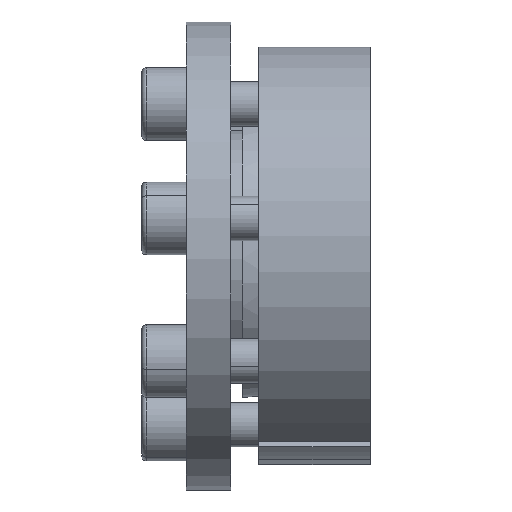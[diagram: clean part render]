
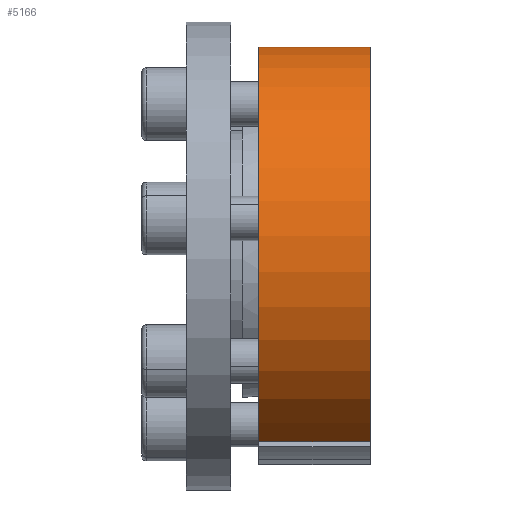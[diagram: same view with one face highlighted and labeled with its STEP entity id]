
A CAD part, front view. The second image highlights one B-rep face of the part: STEP entity #5166.
In plain terms, the highlighted cylindrical face has radius 37.5 mm (diameter 75 mm), a partial arc.
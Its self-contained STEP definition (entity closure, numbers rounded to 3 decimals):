
#15 = AXIS2_PLACEMENT_3D ( 'NONE', #4749, #2948, #3399 ) ;
#427 = DIRECTION ( 'NONE',  ( 0., -0.223, -0.975 ) ) ;
#576 = VERTEX_POINT ( 'NONE', #3555 ) ;
#772 = CARTESIAN_POINT ( 'NONE',  ( 9.605, 0.599, 36.566 ) ) ;
#824 = EDGE_CURVE ( 'NONE', #576, #4145, #5404, .T. ) ;
#911 = VECTOR ( 'NONE', #2855, 1000. ) ;
#923 = CARTESIAN_POINT ( 'NONE',  ( -10.395, -24.913, -33.333 ) ) ;
#1129 = AXIS2_PLACEMENT_3D ( 'NONE', #4621, #4459, #4429 ) ;
#2032 = CIRCLE ( 'NONE', #2455, 37.5 ) ;
#2411 = LINE ( 'NONE', #3860, #5881 ) ;
#2426 = EDGE_CURVE ( 'NONE', #3177, #576, #5601, .T. ) ;
#2455 = AXIS2_PLACEMENT_3D ( 'NONE', #5885, #3178, #427 ) ;
#2707 = CARTESIAN_POINT ( 'NONE',  ( -10.395, 0.599, 36.566 ) ) ;
#2800 = DIRECTION ( 'NONE',  ( -1., 0., 0. ) ) ;
#2855 = DIRECTION ( 'NONE',  ( 1., 0., 0. ) ) ;
#2857 = EDGE_CURVE ( 'NONE', #4145, #4855, #2411, .T. ) ;
#2948 = DIRECTION ( 'NONE',  ( -1., 0., 0. ) ) ;
#3177 = VERTEX_POINT ( 'NONE', #3991 ) ;
#3178 = DIRECTION ( 'NONE',  ( -1., 0., 0. ) ) ;
#3399 = DIRECTION ( 'NONE',  ( 0., -0.223, -0.975 ) ) ;
#3455 = ORIENTED_EDGE ( 'NONE', *, *, #824, .T. ) ;
#3555 = CARTESIAN_POINT ( 'NONE',  ( 9.605, -24.913, -33.333 ) ) ;
#3570 = ORIENTED_EDGE ( 'NONE', *, *, #5882, .F. ) ;
#3860 = CARTESIAN_POINT ( 'NONE',  ( -10.395, 0.599, 36.566 ) ) ;
#3900 = CYLINDRICAL_SURFACE ( 'NONE', #15, 37.5 ) ;
#3991 = CARTESIAN_POINT ( 'NONE',  ( -10.395, -24.913, -33.333 ) ) ;
#4042 = FACE_OUTER_BOUND ( 'NONE', #4302, .T. ) ;
#4145 = VERTEX_POINT ( 'NONE', #772 ) ;
#4283 = ORIENTED_EDGE ( 'NONE', *, *, #2426, .T. ) ;
#4302 = EDGE_LOOP ( 'NONE', ( #3455, #4502, #3570, #4283 ) ) ;
#4429 = DIRECTION ( 'NONE',  ( 0., -0.223, -0.975 ) ) ;
#4459 = DIRECTION ( 'NONE',  ( -1., 0., 0. ) ) ;
#4502 = ORIENTED_EDGE ( 'NONE', *, *, #2857, .T. ) ;
#4621 = CARTESIAN_POINT ( 'NONE',  ( 9.605, -7.745, 0.006 ) ) ;
#4749 = CARTESIAN_POINT ( 'NONE',  ( -10.395, -7.745, 0.006 ) ) ;
#4855 = VERTEX_POINT ( 'NONE', #2707 ) ;
#5166 = ADVANCED_FACE ( 'NONE', ( #4042 ), #3900, .T. ) ;
#5404 = CIRCLE ( 'NONE', #1129, 37.5 ) ;
#5601 = LINE ( 'NONE', #923, #911 ) ;
#5881 = VECTOR ( 'NONE', #2800, 1000. ) ;
#5882 = EDGE_CURVE ( 'NONE', #3177, #4855, #2032, .T. ) ;
#5885 = CARTESIAN_POINT ( 'NONE',  ( -10.395, -7.745, 0.006 ) ) ;
